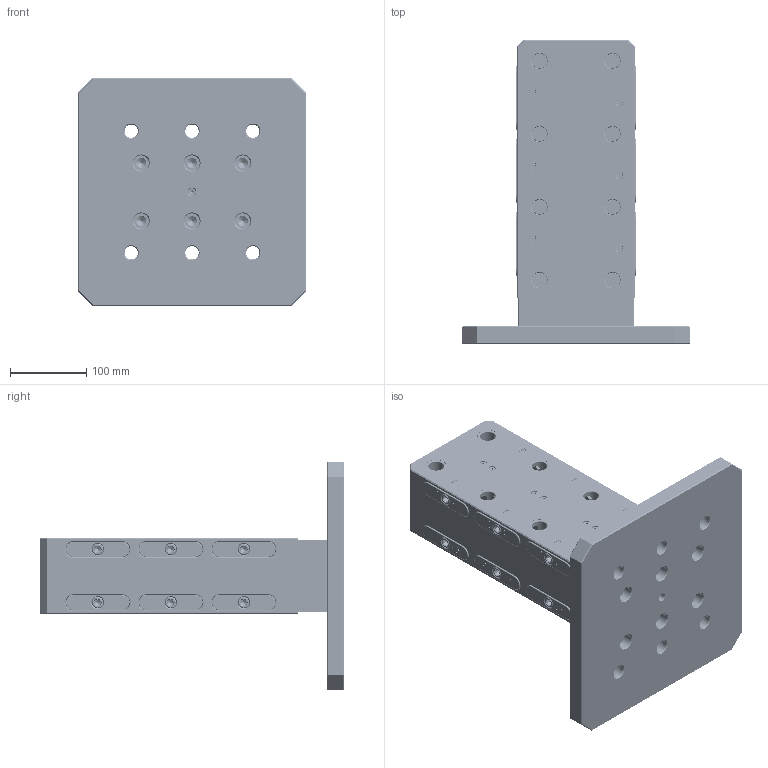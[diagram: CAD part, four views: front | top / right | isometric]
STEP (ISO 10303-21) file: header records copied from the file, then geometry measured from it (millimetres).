
FILE_DESCRIPTION (( 'STEP AP214' ), '1' );
FILE_NAME ('RL96-3002.STEP', '2019-04-29T20:31:57', ( '' ), ( '' ), 'SwSTEP 2.0', 'SolidWorks 2018', '' );
FILE_SCHEMA (( 'AUTOMOTIVE_DESIGN' ));
Length unit declared in the file: inch
Products named in the file (10): RockLock Double Position; RL96-6_95258A216; RL96-5; RL96-4; RL96-3; RL96-2R; RL96-2L; RL96-3002-2; RL96-3002-1; RL96-3002
Assembly tree (33 placements, depth 3):
  RL96-3002
    RL96-3002-1
    RL96-3002-2
    RockLock Double Position  x2
      RL96-2L
      RL96-2R
      RL96-3
      RL96-4
      RL96-5
      RL96-6_95258A216
Bounding box: 300 x 400 x 300 mm (x, y, z)
Volume: 7355212.7 mm3; surface area: 777302.5 mm2
Topology: 60 solids, 60 shells, 5020 faces, 12450 edges, 7898 vertices
Faces by surface type: plane 2494, cylinder 1146, bspline 618, cone 562, torus 200
Entity records: 56204 total; most frequent: CARTESIAN_POINT 18787, DIRECTION 7545, ORIENTED_EDGE 7400, EDGE_CURVE 3700, AXIS2_PLACEMENT_3D 2812, VERTEX_POINT 2338, VECTOR 1921, LINE 1921
